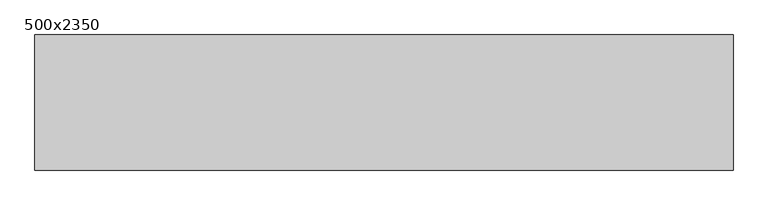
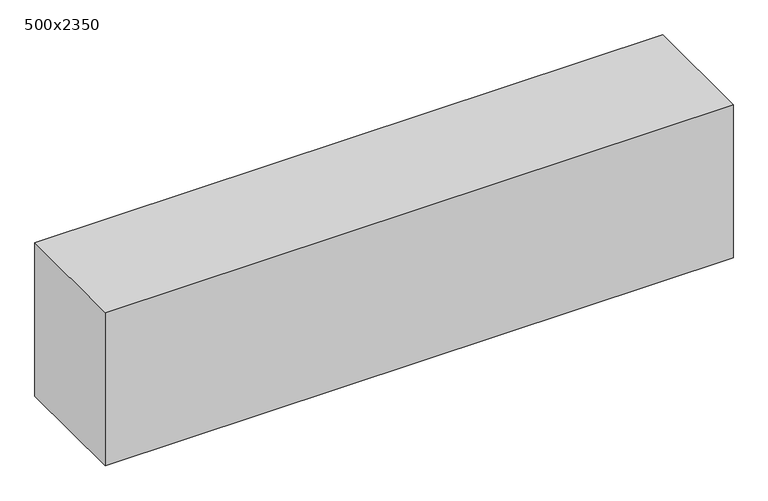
"""IFC4 building model written with IfcOpenShell, lengths in millimetres: furniture geometry, Fu_TV+тумба_LEG : 500x2350."""

from ifc_helpers import new_model, si_unit, origin, origin_with_axes, place, context, project, spatial, polyline, outline, extrude, source, transform, mapped, element, save


def furniture_500x2350_c66ae9e6(model_context):
    return source(origin(), model_context, "Body", "SweptSolid", [
        extrude(outline(polyline([(548.345649, 916.7770492), (548.345649, 616.7770492), (-1001.598108, 616.7770492), (-1001.598108, 916.7770492), (548.345649, 916.7770492)])), origin_with_axes(), (0.0, 0.0, 1.0), 400.0),
    ])


if __name__ == "__main__":
    model = new_model("IFC4")
    model_context = context("Model", 3, world=origin())
    ifc_project = project(units=[si_unit("LENGTHUNIT", "METRE", prefix="MILLI")], contexts=[model_context])
    site = spatial("IfcSite", under=ifc_project)
    building = spatial("IfcBuilding", under=site)
    placement = place(None, origin())
    furniture_500x2350_shape = furniture_500x2350_c66ae9e6(model_context)
    element("IfcFurniture", 1, ObjectType="Fu_TV+тумба_LEG : 500x2350", at=placement, inside=building, context=model_context, shape_type="MappedRepresentation", body=[
        mapped(furniture_500x2350_shape, transform((0.0, 0.0, 0.0), x_axis=(1.0, 0.0, 0.0), y_axis=(0.0, 1.0, 0.0), z_axis=(0.0, 0.0, 1.0))),
    ])
    save(model, "model.ifc")
